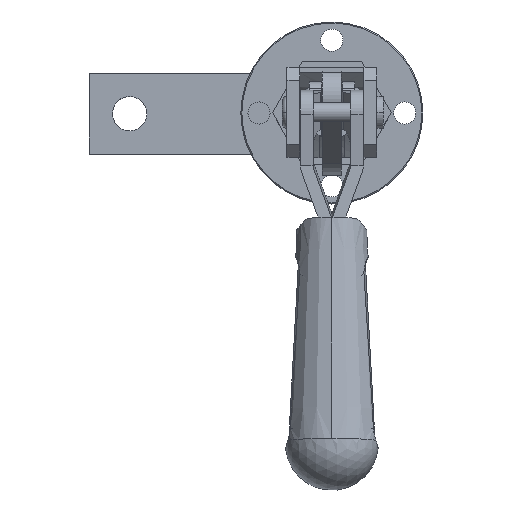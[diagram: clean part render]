
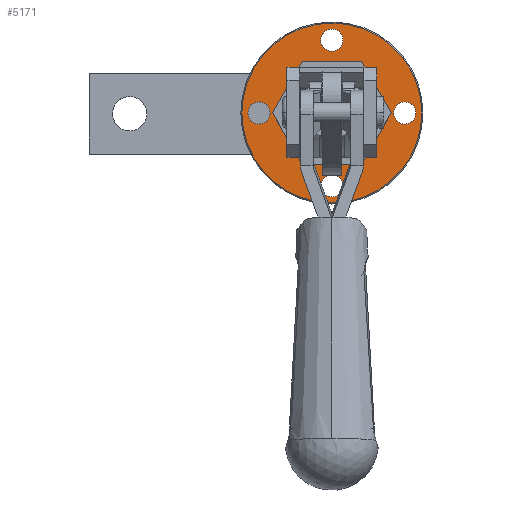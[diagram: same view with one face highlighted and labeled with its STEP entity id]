
A CAD part, top view. The second image highlights one B-rep face of the part: STEP entity #5171.
In plain terms, the highlighted planar face has unit normal (0, 0, 1) as drawn and (0, -1, 0) by its records, which use the part's own axes.
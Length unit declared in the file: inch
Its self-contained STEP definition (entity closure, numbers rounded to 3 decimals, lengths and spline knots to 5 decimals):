
#2877=CARTESIAN_POINT('',(0.,-0.23614,0.));
#2878=DIRECTION('',(0.,1.,0.));
#2879=DIRECTION('',(0.,0.,1.));
#2880=AXIS2_PLACEMENT_3D('',#2877,#2878,#2879);
#2882=CARTESIAN_POINT('',(0.,-0.23614,0.));
#2883=DIRECTION('',(0.,1.,0.));
#2884=DIRECTION('',(0.,0.,-1.));
#2885=AXIS2_PLACEMENT_3D('',#2882,#2883,#2884);
#2887=CARTESIAN_POINT('',(0.,-0.23614,0.));
#2888=DIRECTION('',(0.,-1.,0.));
#2889=DIRECTION('',(1.,0.,0.));
#2890=AXIS2_PLACEMENT_3D('',#2887,#2888,#2889);
#2892=CARTESIAN_POINT('',(0.,-0.23614,0.));
#2893=DIRECTION('',(0.,-1.,0.));
#2894=DIRECTION('',(-1.,0.,0.));
#2895=AXIS2_PLACEMENT_3D('',#2892,#2893,#2894);
#2897=CARTESIAN_POINT('',(0.,-0.23614,-0.70866));
#2898=DIRECTION('',(0.,-1.,0.));
#2899=DIRECTION('',(0.,0.,-1.));
#2900=AXIS2_PLACEMENT_3D('',#2897,#2898,#2899);
#2902=CARTESIAN_POINT('',(0.,-0.23614,-0.70866));
#2903=DIRECTION('',(0.,-1.,0.));
#2904=DIRECTION('',(1.,0.,0.));
#2905=AXIS2_PLACEMENT_3D('',#2902,#2903,#2904);
#2907=CARTESIAN_POINT('',(0.,-0.23614,-0.70866));
#2908=DIRECTION('',(0.,-1.,0.));
#2909=DIRECTION('',(0.,0.,1.));
#2910=AXIS2_PLACEMENT_3D('',#2907,#2908,#2909);
#2912=CARTESIAN_POINT('',(0.70866,-0.23614,0.));
#2913=DIRECTION('',(0.,-1.,0.));
#2914=DIRECTION('',(0.,0.,-1.));
#2915=AXIS2_PLACEMENT_3D('',#2912,#2913,#2914);
#2917=CARTESIAN_POINT('',(0.70866,-0.23614,0.));
#2918=DIRECTION('',(0.,-1.,0.));
#2919=DIRECTION('',(1.,0.,0.));
#2920=AXIS2_PLACEMENT_3D('',#2917,#2918,#2919);
#2922=CARTESIAN_POINT('',(0.70866,-0.23614,0.));
#2923=DIRECTION('',(0.,-1.,0.));
#2924=DIRECTION('',(0.,0.,1.));
#2925=AXIS2_PLACEMENT_3D('',#2922,#2923,#2924);
#2927=CARTESIAN_POINT('',(-0.70866,-0.23614,0.));
#2928=DIRECTION('',(0.,-1.,0.));
#2929=DIRECTION('',(0.,0.,-1.));
#2930=AXIS2_PLACEMENT_3D('',#2927,#2928,#2929);
#2932=CARTESIAN_POINT('',(-0.70866,-0.23614,0.));
#2933=DIRECTION('',(0.,-1.,0.));
#2934=DIRECTION('',(1.,0.,0.));
#2935=AXIS2_PLACEMENT_3D('',#2932,#2933,#2934);
#2937=CARTESIAN_POINT('',(-0.70866,-0.23614,0.));
#2938=DIRECTION('',(0.,-1.,0.));
#2939=DIRECTION('',(0.,0.,1.));
#2940=AXIS2_PLACEMENT_3D('',#2937,#2938,#2939);
#2942=CARTESIAN_POINT('',(0.,-0.23614,0.70866));
#2943=DIRECTION('',(0.,-1.,0.));
#2944=DIRECTION('',(0.,0.,-1.));
#2945=AXIS2_PLACEMENT_3D('',#2942,#2943,#2944);
#2947=CARTESIAN_POINT('',(0.,-0.23614,0.70866));
#2948=DIRECTION('',(0.,-1.,0.));
#2949=DIRECTION('',(1.,0.,0.));
#2950=AXIS2_PLACEMENT_3D('',#2947,#2948,#2949);
#2952=CARTESIAN_POINT('',(0.,-0.23614,0.70866));
#2953=DIRECTION('',(0.,-1.,0.));
#2954=DIRECTION('',(0.,0.,1.));
#2955=AXIS2_PLACEMENT_3D('',#2952,#2953,#2954);
#3313=CARTESIAN_POINT('',(0.48244,-0.23614,0.));
#3314=VERTEX_POINT('',#3313);
#3315=CARTESIAN_POINT('',(-0.48244,-0.23614,0.));
#3316=VERTEX_POINT('',#3315);
#3317=CARTESIAN_POINT('',(0.,-0.23614,0.87598));
#3318=CARTESIAN_POINT('',(0.,-0.23614,-0.87598));
#3319=VERTEX_POINT('',#3317);
#3320=VERTEX_POINT('',#3318);
#3321=CARTESIAN_POINT('',(0.,-0.23614,-0.81693));
#3322=CARTESIAN_POINT('',(0.10827,-0.23614,
-0.70866));
#3323=VERTEX_POINT('',#3321);
#3324=VERTEX_POINT('',#3322);
#3325=CARTESIAN_POINT('',(0.,-0.23614,-0.60039));
#3326=VERTEX_POINT('',#3325);
#3327=CARTESIAN_POINT('',(0.70866,-0.23614,
-0.10827));
#3328=CARTESIAN_POINT('',(0.81693,-0.23614,0.));
#3329=VERTEX_POINT('',#3327);
#3330=VERTEX_POINT('',#3328);
#3331=CARTESIAN_POINT('',(0.70866,-0.23614,
0.10827));
#3332=VERTEX_POINT('',#3331);
#3333=CARTESIAN_POINT('',(-0.70866,-0.23614,
-0.10827));
#3334=CARTESIAN_POINT('',(-0.60039,-0.23614,0.));
#3335=VERTEX_POINT('',#3333);
#3336=VERTEX_POINT('',#3334);
#3337=CARTESIAN_POINT('',(-0.70866,-0.23614,
0.10827));
#3338=VERTEX_POINT('',#3337);
#3339=CARTESIAN_POINT('',(0.,-0.23614,0.60039));
#3340=CARTESIAN_POINT('',(0.10827,-0.23614,
0.70866));
#3341=VERTEX_POINT('',#3339);
#3342=VERTEX_POINT('',#3340);
#3343=CARTESIAN_POINT('',(0.,-0.23614,0.81693));
#3344=VERTEX_POINT('',#3343);
#5124=CARTESIAN_POINT('',(0.,-0.23614,0.));
#5125=DIRECTION('',(0.,-1.,0.));
#5126=DIRECTION('',(-1.,0.,0.));
#5127=AXIS2_PLACEMENT_3D('',#5124,#5125,#5126);
#5128=PLANE('',#5127);
#5130=ORIENTED_EDGE('',*,*,#5129,.T.);
#5132=ORIENTED_EDGE('',*,*,#5131,.T.);
#5133=EDGE_LOOP('',(#5130,#5132));
#5134=FACE_OUTER_BOUND('',#5133,.F.);
#5135=ORIENTED_EDGE('',*,*,#5119,.T.);
#5136=ORIENTED_EDGE('',*,*,#5104,.T.);
#5137=EDGE_LOOP('',(#5135,#5136));
#5138=FACE_BOUND('',#5137,.F.);
#5140=ORIENTED_EDGE('',*,*,#5139,.T.);
#5142=ORIENTED_EDGE('',*,*,#5141,.T.);
#5144=ORIENTED_EDGE('',*,*,#5143,.T.);
#5145=EDGE_LOOP('',(#5140,#5142,#5144));
#5146=FACE_BOUND('',#5145,.F.);
#5148=ORIENTED_EDGE('',*,*,#5147,.T.);
#5150=ORIENTED_EDGE('',*,*,#5149,.T.);
#5152=ORIENTED_EDGE('',*,*,#5151,.T.);
#5153=EDGE_LOOP('',(#5148,#5150,#5152));
#5154=FACE_BOUND('',#5153,.F.);
#5156=ORIENTED_EDGE('',*,*,#5155,.T.);
#5158=ORIENTED_EDGE('',*,*,#5157,.T.);
#5160=ORIENTED_EDGE('',*,*,#5159,.T.);
#5161=EDGE_LOOP('',(#5156,#5158,#5160));
#5162=FACE_BOUND('',#5161,.F.);
#5164=ORIENTED_EDGE('',*,*,#5163,.T.);
#5166=ORIENTED_EDGE('',*,*,#5165,.T.);
#5168=ORIENTED_EDGE('',*,*,#5167,.T.);
#5169=EDGE_LOOP('',(#5164,#5166,#5168));
#5170=FACE_BOUND('',#5169,.F.);
#2881=CIRCLE('',#2880,0.87598);
#2886=CIRCLE('',#2885,0.87598);
#2891=CIRCLE('',#2890,0.48244);
#2896=CIRCLE('',#2895,0.48244);
#2901=CIRCLE('',#2900,0.10827);
#2906=CIRCLE('',#2905,0.10827);
#2911=CIRCLE('',#2910,0.10827);
#2916=CIRCLE('',#2915,0.10827);
#2921=CIRCLE('',#2920,0.10827);
#2926=CIRCLE('',#2925,0.10827);
#2931=CIRCLE('',#2930,0.10827);
#2936=CIRCLE('',#2935,0.10827);
#2941=CIRCLE('',#2940,0.10827);
#2946=CIRCLE('',#2945,0.10827);
#2951=CIRCLE('',#2950,0.10827);
#2956=CIRCLE('',#2955,0.10827);
#5104=EDGE_CURVE('',#3316,#3314,#2896,.T.);
#5119=EDGE_CURVE('',#3314,#3316,#2891,.T.);
#5129=EDGE_CURVE('',#3319,#3320,#2881,.T.);
#5131=EDGE_CURVE('',#3320,#3319,#2886,.T.);
#5139=EDGE_CURVE('',#3323,#3324,#2901,.T.);
#5141=EDGE_CURVE('',#3324,#3326,#2906,.T.);
#5143=EDGE_CURVE('',#3326,#3323,#2911,.T.);
#5147=EDGE_CURVE('',#3329,#3330,#2916,.T.);
#5149=EDGE_CURVE('',#3330,#3332,#2921,.T.);
#5151=EDGE_CURVE('',#3332,#3329,#2926,.T.);
#5155=EDGE_CURVE('',#3335,#3336,#2931,.T.);
#5157=EDGE_CURVE('',#3336,#3338,#2936,.T.);
#5159=EDGE_CURVE('',#3338,#3335,#2941,.T.);
#5163=EDGE_CURVE('',#3341,#3342,#2946,.T.);
#5165=EDGE_CURVE('',#3342,#3344,#2951,.T.);
#5167=EDGE_CURVE('',#3344,#3341,#2956,.T.);
#5171=ADVANCED_FACE('',(#5134,#5138,#5146,#5154,#5162,#5170),#5128,.T.);
